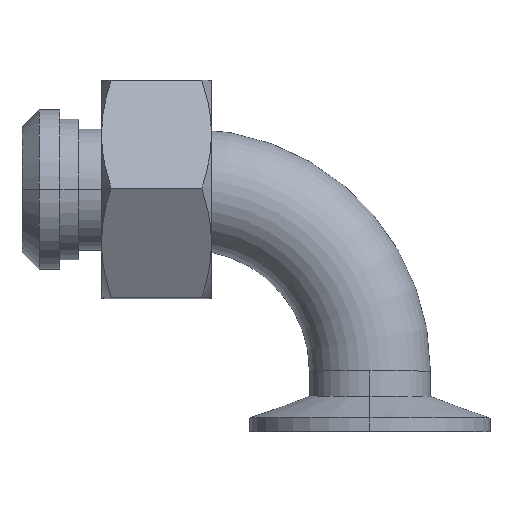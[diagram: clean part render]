
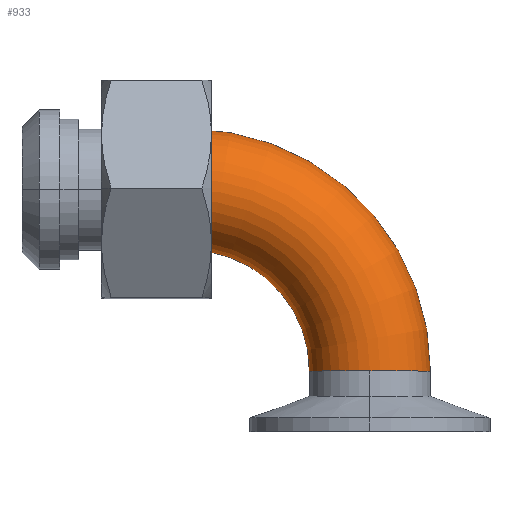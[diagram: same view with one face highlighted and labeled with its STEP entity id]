
A CAD part, top view. The second image highlights one B-rep face of the part: STEP entity #933.
In plain terms, the highlighted toroidal (fillet/blend) face has major radius 38.1 mm and minor radius 12.7 mm.
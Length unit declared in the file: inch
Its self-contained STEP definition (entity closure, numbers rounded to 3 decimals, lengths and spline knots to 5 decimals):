
#17 = ORIENTED_EDGE ( 'NONE', *, *, #1564, .F. ) ;
#35 = CARTESIAN_POINT ( 'NONE',  ( 0., 0., 0. ) ) ;
#72 = VERTEX_POINT ( 'NONE', #3044 ) ;
#142 = VERTEX_POINT ( 'NONE', #1226 ) ;
#172 = DIRECTION ( 'NONE',  ( 0., 0., -1. ) ) ;
#231 = AXIS2_PLACEMENT_3D ( 'NONE', #35, #2138, #344 ) ;
#257 = DIRECTION ( 'NONE',  ( -1., 0., 0. ) ) ;
#318 = CIRCLE ( 'NONE', #3628, 2. ) ;
#344 = DIRECTION ( 'NONE',  ( -1., 0., 0. ) ) ;
#503 = AXIS2_PLACEMENT_3D ( 'NONE', #1532, #3608, #1844 ) ;
#586 = AXIS2_PLACEMENT_3D ( 'NONE', #2550, #750, #2848 ) ;
#750 = DIRECTION ( 'NONE',  ( -1., 0., 0. ) ) ;
#780 = CIRCLE ( 'NONE', #586, 0.5 ) ;
#790 = CIRCLE ( 'NONE', #231, 1. ) ;
#933 = ADVANCED_FACE ( 'NONE', ( #2156 ), #2942, .T. ) ;
#1010 = EDGE_CURVE ( 'NONE', #2767, #2509, #1970, .T. ) ;
#1226 = CARTESIAN_POINT ( 'NONE',  ( 0., 2., 0. ) ) ;
#1280 = EDGE_CURVE ( 'NONE', #72, #2767, #790, .T. ) ;
#1399 = CARTESIAN_POINT ( 'NONE',  ( 1., 0., 0. ) ) ;
#1532 = CARTESIAN_POINT ( 'NONE',  ( 1.5, 0., 0. ) ) ;
#1564 = EDGE_CURVE ( 'NONE', #142, #2509, #318, .T. ) ;
#1808 = ORIENTED_EDGE ( 'NONE', *, *, #1010, .T. ) ;
#1844 = DIRECTION ( 'NONE',  ( 0., 0., 1. ) ) ;
#1970 = CIRCLE ( 'NONE', #503, 0.5 ) ;
#1971 = CARTESIAN_POINT ( 'NONE',  ( 0., 0., 0. ) ) ;
#2057 = DIRECTION ( 'NONE',  ( 0., 0., -1. ) ) ;
#2138 = DIRECTION ( 'NONE',  ( 0., 0., -1. ) ) ;
#2156 = FACE_OUTER_BOUND ( 'NONE', #2608, .T. ) ;
#2273 = DIRECTION ( 'NONE',  ( -1., 0., 0. ) ) ;
#2326 = ORIENTED_EDGE ( 'NONE', *, *, #3273, .F. ) ;
#2352 = CARTESIAN_POINT ( 'NONE',  ( 0., 0., 0. ) ) ;
#2509 = VERTEX_POINT ( 'NONE', #3612 ) ;
#2550 = CARTESIAN_POINT ( 'NONE',  ( 0., 1.5, 0. ) ) ;
#2608 = EDGE_LOOP ( 'NONE', ( #17, #2326, #3211, #1808 ) ) ;
#2767 = VERTEX_POINT ( 'NONE', #1399 ) ;
#2848 = DIRECTION ( 'NONE',  ( 0., 0., 1. ) ) ;
#2942 = TOROIDAL_SURFACE ( 'NONE', #3376, 1.5, 0.5 ) ;
#3044 = CARTESIAN_POINT ( 'NONE',  ( 0., 1., 0. ) ) ;
#3211 = ORIENTED_EDGE ( 'NONE', *, *, #1280, .T. ) ;
#3273 = EDGE_CURVE ( 'NONE', #72, #142, #780, .T. ) ;
#3376 = AXIS2_PLACEMENT_3D ( 'NONE', #2352, #2057, #257 ) ;
#3608 = DIRECTION ( 'NONE',  ( 0., 1., 0. ) ) ;
#3612 = CARTESIAN_POINT ( 'NONE',  ( 2., 0., 0. ) ) ;
#3628 = AXIS2_PLACEMENT_3D ( 'NONE', #1971, #172, #2273 ) ;
